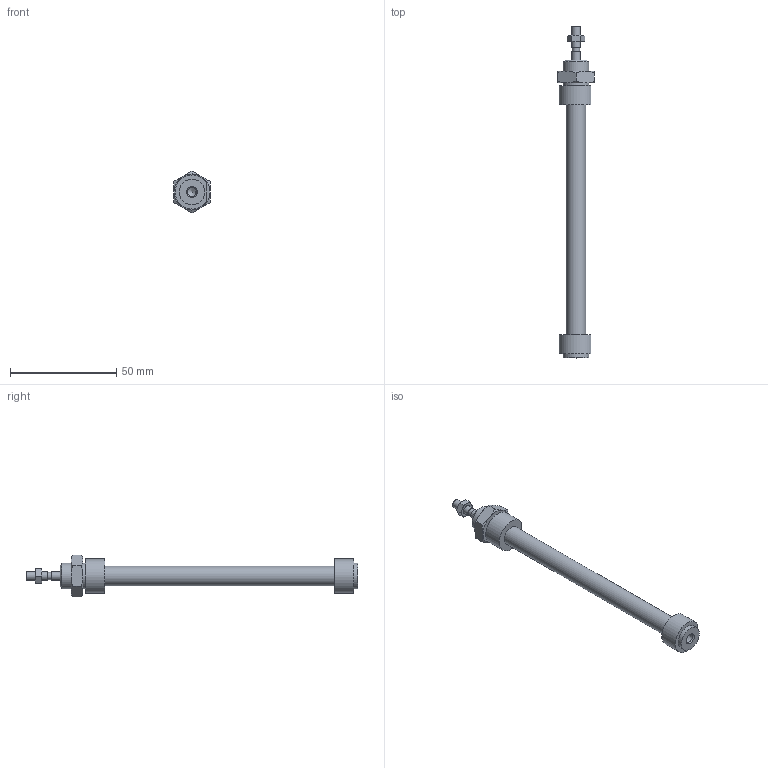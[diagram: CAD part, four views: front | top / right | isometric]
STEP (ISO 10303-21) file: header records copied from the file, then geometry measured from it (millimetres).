
FILE_DESCRIPTION((''),'2;1');
FILE_NAME('I:\Area Tecnica\Disegni\VARIE-3D\Componenti\1280\1281_##_####_#\1281_08_0080.iam.stp','2009-06-04T09:37:16',(''),(''),'Autodesk Inventor 2010','Autodesk Inventor 2010','');
FILE_SCHEMA(('AUTOMOTIVE_DESIGN { 1 0 10303 214 1 1 1 1 }'));
Length unit declared in the file: millimetre
Products named in the file (5): 1281_08_0080; C1281_08_80; S1280_08_80; 1200_08_05; 1200_08_06
Assembly tree (4 placements, depth 2):
  1281_08_0080
    C1281_08_80
    S1280_08_80
    1200_08_05
    1200_08_06
Bounding box: 17 x 156 x 19.63 mm (x, y, z)
Volume: 13187.2 mm3; surface area: 9061.8 mm2
Topology: 4 solids, 4 shells, 79 faces, 165 edges, 100 vertices
Faces by surface type: plane 29, cone 26, bspline 15, cylinder 9
Full cylindrical faces by diameter (mm): 3.5 x1, 4 x3, 9.2 x1, 12 x2
Entity records: 2316 total; most frequent: CARTESIAN_POINT 655, DIRECTION 294, ORIENTED_EDGE 274, EDGE_CURVE 137, AXIS2_PLACEMENT_3D 135, EDGE_LOOP 114, VERTEX_POINT 93, STYLED_ITEM 83
